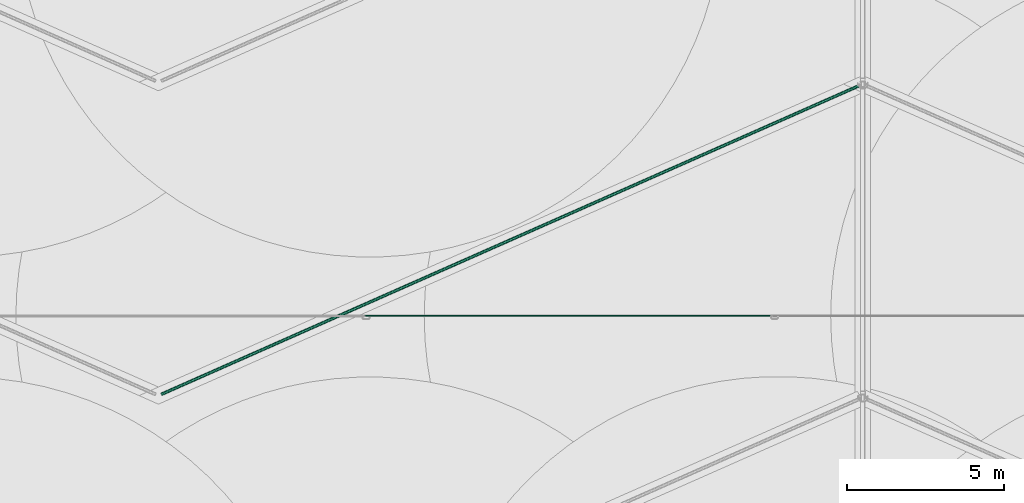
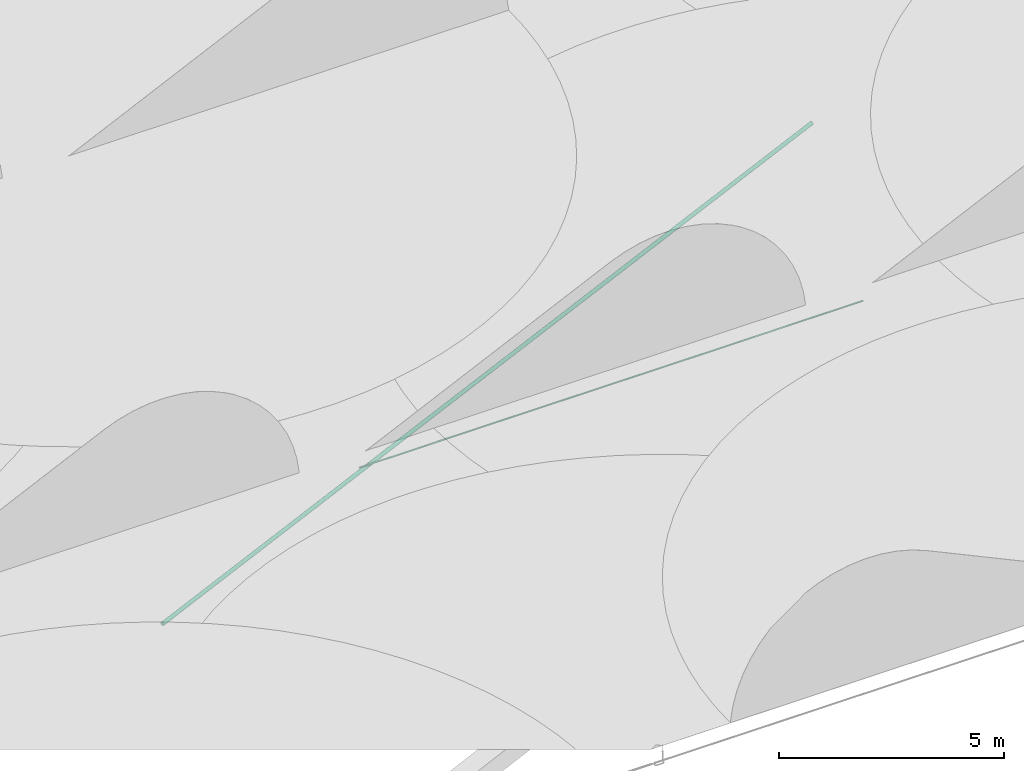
# One storey, part 26 of 166: 2 flow segments.
"""IFC2X3 building model written with IfcOpenShell, lengths in metres."""

from ifc_helpers import new_model, entity, si_unit, converted_unit, direction, frame, frame_2d, origin, place, context, subcontext, project, spatial, circle, extrude, type_object, element, save


model = new_model("IFC2X3")

# Units and contexts
model_context = context("Model", 3, precision=1e-05, world=origin(), true_north=direction((6.123233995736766e-17, 1.0)))
body_context = subcontext(model_context, "Body", "Model", "MODEL_VIEW")
ifc_project = project(units=[si_unit("LENGTHUNIT", "METRE"), converted_unit("PLANEANGLEUNIT", "DEGREE", entity("IfcPlaneAngleMeasure", 0.017453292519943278), si_unit("PLANEANGLEUNIT", "RADIAN"), dimensions=[0, 0, 0, 0, 0, 0, 0]), si_unit("AREAUNIT", "SQUARE_METRE")], contexts=[model_context])

# Site, building, storey
site_placement = place(None, origin())
site = spatial("IfcSite", under=ifc_project, at=site_placement, Name="Default", CompositionType="ELEMENT")
building_placement = place(site_placement, origin())
building = spatial("IfcBuilding", under=site, at=building_placement, Name="CASA DE ACOLHIDA PARA IDOSOS", CompositionType="ELEMENT")
storey_placement = place(building_placement, frame((0.0, 0.0, -1.7499999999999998)))
storey = spatial("IfcBuildingStorey", under=building, at=storey_placement, Name="IMPLANTAÇÃO DRENAGEM", CompositionType="ELEMENT", Elevation=-1.7499999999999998)

# Flow segments
pipe_segment_type_1 = type_object("IfcPipeSegmentType", Name="Tipos de tubos:PLUV_Tubo PEAD Corrugado", PredefinedType="NOTDEFINED")
flow_segment_1_placement = place(storey_placement, origin())
element("IfcFlowSegment", 1, at=flow_segment_1_placement, inside=storey, type_object=pipe_segment_type_1, Name="Tipos de tubos:PLUV_Tubo PEAD Corrugado", ObjectType="Tipos de tubos:PLUV_Tubo PEAD Corrugado", context=body_context, shape_type="SweptSolid", body=[
    extrude(circle(Radius=0.05, at=frame_2d((1.9806413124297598e-15, -8.760069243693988e-18), x_axis=(1.0, 0.0))), frame((22.968633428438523, 3.854942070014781, -0.8947999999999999), z_axis=(-0.9144899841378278, -0.40448495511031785, 0.009999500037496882), x_axis=(0.40450517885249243, -0.9145357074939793, 0.0)), (0.0, 0.0, 1.0), 24.48022857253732),
])
pipe_segment_type_2 = type_object("IfcPipeSegmentType", Name="Tipos de tubos:AF_Tubo Marrom Soldável", PredefinedType="NOTDEFINED")
flow_segment_2_placement = place(storey_placement, origin())
element("IfcFlowSegment", 2, at=flow_segment_2_placement, inside=storey, type_object=pipe_segment_type_2, Name="Tipos de tubos:AF_Tubo Marrom Soldável", ObjectType="Tipos de tubos:AF_Tubo Marrom Soldável", context=body_context, shape_type="SweptSolid", body=[
    extrude(circle(Radius=0.016, at=frame_2d((0.0, -2.707167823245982e-16), x_axis=(1.0, 0.0))), frame((7.082445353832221, -3.545057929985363, -0.19999999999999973), z_axis=(1.0, 0.0, 0.0), x_axis=(0.0, -1.0, 0.0)), (0.0, 0.0, 1.0), 12.933905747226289),
])

save(model, "model.ifc")
